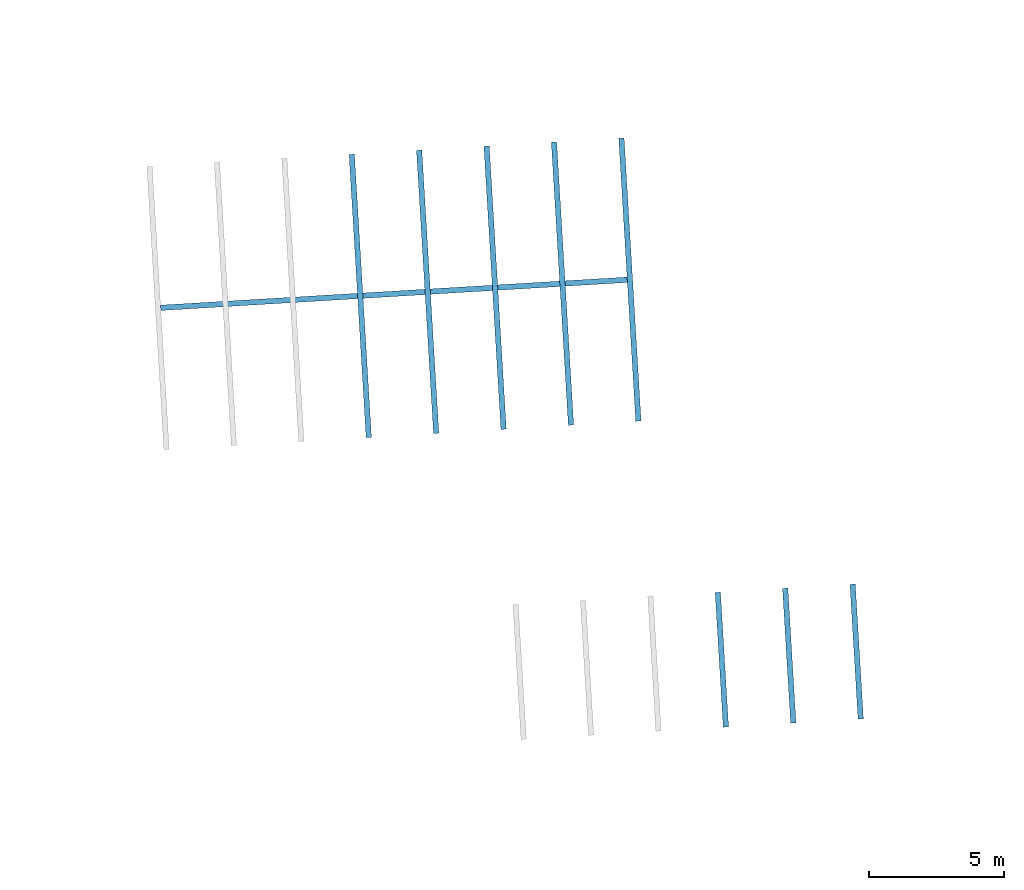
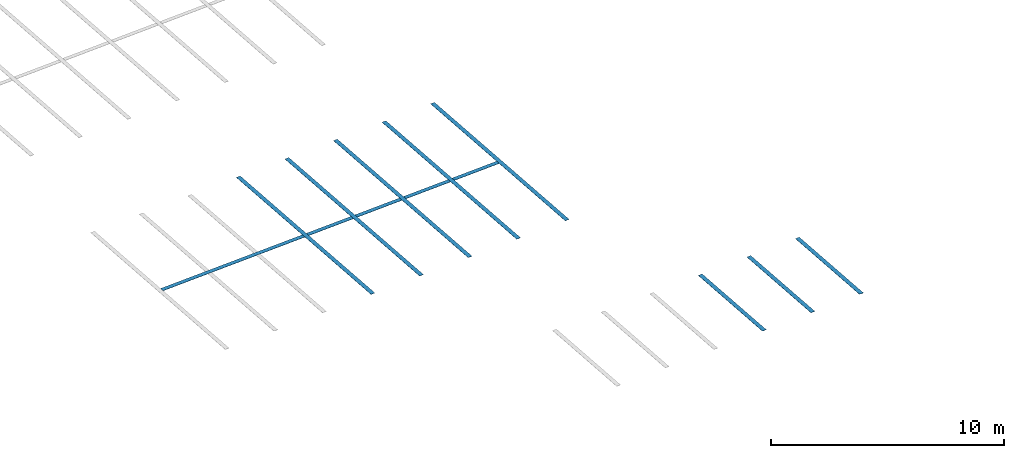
# One storey, part 12 of 24: 9 walls.
"""IFC2X3 building model written with IfcOpenShell, lengths in millimetres."""

from ifc_helpers import new_model, entity, si_unit, converted_unit, derived_unit, direction, frame, frame_2d, origin, origin_2d_with_axis, place, context, subcontext, project, spatial, rectangle, extrude, material, type_object, element, save


model = new_model("IFC2X3")

# Units and contexts
model_context = context("Model", 3, precision=0.01, world=origin(), true_north=direction((6.123031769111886e-17, 1.0)))
body_context = subcontext(model_context, "Body", "Model", "MODEL_VIEW")
ifc_project = project(units=[si_unit("LENGTHUNIT", "METRE", prefix="MILLI"), si_unit("AREAUNIT", "SQUARE_METRE"), si_unit("VOLUMEUNIT", "CUBIC_METRE"), converted_unit("PLANEANGLEUNIT", "DEGREE", entity("IfcRatioMeasure", 0.017453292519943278), si_unit("PLANEANGLEUNIT", "RADIAN"), dimensions=[0, 0, 0, 0, 0, 0, 0]), si_unit("MASSUNIT", "GRAM", prefix="KILO"), derived_unit("MASSDENSITYUNIT", [(si_unit("MASSUNIT", "GRAM", prefix="KILO"), 1), (si_unit("LENGTHUNIT", "METRE"), -3)]), derived_unit("MOMENTOFINERTIAUNIT", [(si_unit("LENGTHUNIT", "METRE"), 4)]), si_unit("TIMEUNIT", "SECOND"), si_unit("FREQUENCYUNIT", "HERTZ"), si_unit("THERMODYNAMICTEMPERATUREUNIT", "DEGREE_CELSIUS"), derived_unit("THERMALTRANSMITTANCEUNIT", [(si_unit("MASSUNIT", "GRAM", prefix="KILO"), 1), (si_unit("THERMODYNAMICTEMPERATUREUNIT", "KELVIN"), -1), (si_unit("TIMEUNIT", "SECOND"), -3)]), derived_unit("THERMALCONDUCTANCEUNIT", [(si_unit("MASSUNIT", "GRAM", prefix="KILO"), 1), (si_unit("LENGTHUNIT", "METRE"), 1), (si_unit("THERMODYNAMICTEMPERATUREUNIT", "KELVIN"), -1), (si_unit("TIMEUNIT", "SECOND"), -3)]), derived_unit("VOLUMETRICFLOWRATEUNIT", [(si_unit("LENGTHUNIT", "METRE"), 3), (si_unit("TIMEUNIT", "SECOND"), -1)]), derived_unit("MASSFLOWRATEUNIT", [(si_unit("MASSUNIT", "GRAM", prefix="KILO"), 1), (si_unit("TIMEUNIT", "SECOND"), -1)]), derived_unit("ROTATIONALFREQUENCYUNIT", [(si_unit("TIMEUNIT", "SECOND"), -1)]), si_unit("ELECTRICCURRENTUNIT", "AMPERE"), si_unit("ELECTRICVOLTAGEUNIT", "VOLT"), si_unit("POWERUNIT", "WATT"), converted_unit("FORCEUNIT", "KIP", entity("IfcRatioMeasure", 2.088543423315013e-05), si_unit("FORCEUNIT", "NEWTON"), dimensions=[1, 1, -2, 0, 0, 0, 0]), si_unit("ILLUMINANCEUNIT", "LUX"), si_unit("LUMINOUSFLUXUNIT", "LUMEN"), si_unit("LUMINOUSINTENSITYUNIT", "CANDELA"), derived_unit("USERDEFINED", [(si_unit("MASSUNIT", "GRAM", prefix="KILO"), -1), (si_unit("LENGTHUNIT", "METRE"), -2), (si_unit("TIMEUNIT", "SECOND"), 3), (si_unit("LUMINOUSFLUXUNIT", "LUMEN"), 1)]), derived_unit("USERDEFINED", [(si_unit("MASSUNIT", "GRAM", prefix="KILO"), 1), (si_unit("LENGTHUNIT", "METRE"), 3), (si_unit("TIMEUNIT", "SECOND"), -3), (si_unit("ELECTRICCURRENTUNIT", "AMPERE"), -2)]), derived_unit("USERDEFINED", [(si_unit("LENGTHUNIT", "METRE"), 2), (si_unit("TIMEUNIT", "SECOND"), -2)]), derived_unit("SOUNDPOWERUNIT", [(si_unit("MASSUNIT", "GRAM", prefix="KILO"), 1), (si_unit("LENGTHUNIT", "METRE"), 2), (si_unit("TIMEUNIT", "SECOND"), -3)]), derived_unit("SOUNDPRESSUREUNIT", [(si_unit("MASSUNIT", "GRAM", prefix="KILO"), 1), (si_unit("LENGTHUNIT", "METRE"), -1), (si_unit("TIMEUNIT", "SECOND"), -2)]), derived_unit("LINEARVELOCITYUNIT", [(si_unit("LENGTHUNIT", "METRE"), 1), (si_unit("TIMEUNIT", "SECOND"), -1)]), si_unit("PRESSUREUNIT", "PASCAL"), derived_unit("USERDEFINED", [(si_unit("LENGTHUNIT", "METRE"), -2), (si_unit("MASSUNIT", "GRAM", prefix="KILO"), 1), (si_unit("TIMEUNIT", "SECOND"), -2)]), derived_unit("LINEARFORCEUNIT", [(si_unit("MASSUNIT", "GRAM", prefix="KILO"), 1), (si_unit("LENGTHUNIT", "METRE"), 1), (si_unit("TIMEUNIT", "SECOND"), -2), (si_unit("LENGTHUNIT", "METRE"), -1)]), derived_unit("PLANARFORCEUNIT", [(si_unit("MASSUNIT", "GRAM", prefix="KILO"), 1), (si_unit("LENGTHUNIT", "METRE"), 1), (si_unit("TIMEUNIT", "SECOND"), -2), (si_unit("LENGTHUNIT", "METRE"), -2)]), derived_unit("SPECIFICHEATCAPACITYUNIT", [(si_unit("LENGTHUNIT", "METRE"), 2), (si_unit("TIMEUNIT", "SECOND"), -2), (si_unit("THERMODYNAMICTEMPERATUREUNIT", "KELVIN"), -1)]), derived_unit("VAPORPERMEABILITYUNIT", [(si_unit("TIMEUNIT", "SECOND"), 1), (si_unit("LENGTHUNIT", "METRE"), -1)]), derived_unit("DYNAMICVISCOSITYUNIT", [(si_unit("MASSUNIT", "GRAM", prefix="KILO"), 1), (si_unit("LENGTHUNIT", "METRE"), -1), (si_unit("TIMEUNIT", "SECOND"), -1)]), derived_unit("THERMALEXPANSIONCOEFFICIENTUNIT", [(si_unit("THERMODYNAMICTEMPERATUREUNIT", "KELVIN"), -1)])], contexts=[model_context])

# Site, building, storey
site_placement = place(None, frame((0.0, 0.0, 0.0), z_axis=(0.0, 0.0, 1.0), x_axis=(0.8191520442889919, 0.5735764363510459, 0.0)))
site = spatial("IfcSite", under=ifc_project, at=site_placement, Name="Default", CompositionType="ELEMENT")
building_placement = place(site_placement, origin())
building = spatial("IfcBuilding", under=site, at=building_placement, CompositionType="ELEMENT")
storey_placement = place(building_placement, frame((0.0, 0.0, -1150.0)))
storey = spatial("IfcBuildingStorey", under=building, at=storey_placement, Name="6.EG KH -1.15", CompositionType="ELEMENT", Elevation=-1150.0000000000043)

# Walls
ifc_material = material(Name="road_markirovka")
wall_type_1 = type_object("IfcWallType", Name="07", PredefinedType="NOTDEFINED", material=ifc_material)
wall_1_placement = place(storey_placement, frame((20769.60952162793, -31406.718820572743, 550.0), z_axis=(0.0, 0.0, 1.0), x_axis=(0.0, 1.0, 0.0)))
element("IfcWall", 1, at=wall_1_placement, inside=storey, type_object=wall_type_1, material=ifc_material, Name="07:07", ObjectType="07:07", context=body_context, shape_type="SweptSolid", body=[
    extrude(rectangle(XDim=200.00000000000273, YDim=4999.999999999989, at=origin_2d_with_axis()), frame((2182.58050410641, -1393.6700948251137, 0.0), z_axis=(0.0, 0.0, 1.0), x_axis=(0.5233841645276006, 0.8520968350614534, 0.0)), (0.0, 0.0, 1.0), 9.999999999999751),
])
wall_type_2 = type_object("IfcWallType", Name="08", PredefinedType="NOTDEFINED", material=ifc_material)
wall_2_placement = place(storey_placement, frame((22899.851609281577, -32715.179231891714, 550.0), z_axis=(0.0, 0.0, 1.0), x_axis=(0.0, 1.0, 0.0)))
element("IfcWall", 2, at=wall_2_placement, inside=storey, type_object=wall_type_2, material=ifc_material, Name="08 203722:08 203722", ObjectType="08 203722:08 203722", context=body_context, shape_type="SweptSolid", body=[
    extrude(rectangle(XDim=199.99999999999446, YDim=4999.999999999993, at=frame_2d((4.128253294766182e-12, -2.5011104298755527e-12), x_axis=(1.0, 0.0))), frame((2182.5805041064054, -1393.6700948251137, 0.0), z_axis=(0.0, 0.0, 1.0), x_axis=(0.5233841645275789, 0.8520968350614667, 0.0)), (0.0, 0.0, 1.0), 9.999999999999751),
])
wall_type_3 = type_object("IfcWallType", Name="09", PredefinedType="NOTDEFINED", material=ifc_material)
wall_3_placement = place(storey_placement, frame((25030.093696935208, -34023.639643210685, 550.0), z_axis=(0.0, 0.0, 1.0), x_axis=(0.0, 1.0, 0.0)))
element("IfcWall", 3, at=wall_3_placement, inside=storey, type_object=wall_type_3, material=ifc_material, Name="09:09", ObjectType="09:09", context=body_context, shape_type="SweptSolid", body=[
    extrude(rectangle(XDim=200.0000000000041, YDim=4999.999999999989, at=origin_2d_with_axis()), frame((2182.5805041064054, -1393.6700948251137, 0.0), z_axis=(0.0, 0.0, 1.0), x_axis=(0.5233841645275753, 0.8520968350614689, 0.0)), (0.0, 0.0, 1.0), 9.999999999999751),
])
wall_type_4 = type_object("IfcWallType", Name="05", PredefinedType="NOTDEFINED", material=ifc_material)
wall_4_placement = place(storey_placement, frame((12534.60715707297, -15778.553390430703, 600.0)))
element("IfcWall", 4, at=wall_4_placement, inside=storey, type_object=wall_type_4, material=ifc_material, Name="05 203758:05 203758", ObjectType="05 203758:05 203758", context=body_context, shape_type="SweptSolid", body=[
    extrude(rectangle(XDim=199.99999999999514, YDim=17300.000000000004, at=frame_2d((3.524291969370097e-12, -9.094947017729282e-13), x_axis=(1.0, 0.0))), frame((7455.847306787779, 4612.482706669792, 0.0), z_axis=(0.0, 0.0, 1.0), x_axis=(0.5233841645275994, 0.8520968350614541, 0.0)), (0.0, 0.0, 1.0), 9.999999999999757),
])
wall_type_5 = type_object("IfcWallType", Name="04", PredefinedType="NOTDEFINED", material=ifc_material)
wall_5_placement = place(storey_placement, frame((22483.083135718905, -18963.068512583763, 600.0), z_axis=(0.0, 0.0, 1.0), x_axis=(0.0, 1.0, 0.0)))
element("IfcWall", 5, at=wall_5_placement, inside=storey, type_object=wall_type_5, material=ifc_material, Name="04 203762:04 203762", ObjectType="04 203762:04 203762", context=body_context, shape_type="SweptSolid", body=[
    extrude(rectangle(XDim=200.00000000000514, YDim=10500.000000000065, at=frame_2d((-2.5650592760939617e-12, -4.547473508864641e-12), x_axis=(1.0, 0.0))), frame((4525.8468005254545, -2832.976547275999, 0.0), z_axis=(0.0, 0.0, 1.0), x_axis=(0.5233841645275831, 0.852096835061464, 0.0)), (0.0, 0.0, 1.0), 9.999999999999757),
])
wall_type_6 = type_object("IfcWallType", Name="04", PredefinedType="NOTDEFINED", material=ifc_material)
wall_6_placement = place(storey_placement, frame((24613.325223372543, -20271.52892390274, 600.0), z_axis=(0.0, 0.0, 1.0), x_axis=(0.0, 1.0, 0.0)))
element("IfcWall", 6, at=wall_6_placement, inside=storey, type_object=wall_type_6, material=ifc_material, Name="04 203764:04 203764", ObjectType="04 203764:04 203764", context=body_context, shape_type="SweptSolid", body=[
    extrude(rectangle(XDim=200.0000000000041, YDim=10500.000000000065, at=origin_2d_with_axis()), frame((4525.8468005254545, -2832.976547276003, 0.0), z_axis=(0.0, 0.0, 1.0), x_axis=(0.5233841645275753, 0.8520968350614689, 0.0)), (0.0, 0.0, 1.0), 9.999999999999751),
])
wall_type_7 = type_object("IfcWallType", Name="04", PredefinedType="NOTDEFINED", material=ifc_material)
wall_7_placement = place(storey_placement, frame((20352.841048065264, -17654.6081012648, 600.0), z_axis=(0.0, 0.0, 1.0), x_axis=(0.0, 1.0, 0.0)))
element("IfcWall", 7, at=wall_7_placement, inside=storey, type_object=wall_type_7, material=ifc_material, Name="04 203765:04 203765", ObjectType="04 203765:04 203765", context=body_context, shape_type="SweptSolid", body=[
    extrude(rectangle(XDim=200.00000000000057, YDim=10500.000000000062, at=origin_2d_with_axis()), frame((4525.8468005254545, -2832.976547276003, 0.0), z_axis=(0.0, 0.0, 1.0), x_axis=(0.5233841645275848, 0.8520968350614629, 0.0)), (0.0, 0.0, 1.0), 9.999999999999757),
])
wall_type_8 = type_object("IfcWallType", Name="04", PredefinedType="NOTDEFINED", material=ifc_material)
wall_8_placement = place(storey_placement, frame((18222.598960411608, -16346.14768994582, 600.0), z_axis=(0.0, 0.0, 1.0), x_axis=(0.0, 1.0, 0.0)))
element("IfcWall", 8, at=wall_8_placement, inside=storey, type_object=wall_type_8, material=ifc_material, Name="04 203766:04 203766", ObjectType="04 203766:04 203766", context=body_context, shape_type="SweptSolid", body=[
    extrude(rectangle(XDim=200.0000000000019, YDim=10500.000000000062, at=frame_2d((-1.8900436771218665e-12, -9.094947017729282e-13), x_axis=(1.0, 0.0))), frame((4525.8468005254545, -2832.976547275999, 0.0), z_axis=(0.0, 0.0, 1.0), x_axis=(0.5233841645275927, 0.8520968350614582, 0.0)), (0.0, 0.0, 1.0), 9.999999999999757),
])
wall_type_9 = type_object("IfcWallType", Name="04", PredefinedType="NOTDEFINED", material=ifc_material)
wall_9_placement = place(storey_placement, frame((16092.356872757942, -15037.687278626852, 600.0), z_axis=(0.0, 0.0, 1.0), x_axis=(0.0, 1.0, 0.0)))
element("IfcWall", 9, at=wall_9_placement, inside=storey, type_object=wall_type_9, material=ifc_material, Name="04 203769:04 203769", ObjectType="04 203769:04 203769", context=body_context, shape_type="SweptSolid", body=[
    extrude(rectangle(XDim=200.00000000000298, YDim=10500.000000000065, at=frame_2d((2.7000623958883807e-13, -4.547473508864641e-13), x_axis=(1.0, 0.0))), frame((4525.846800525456, -2832.976547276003, 0.0), z_axis=(0.0, 0.0, 1.0), x_axis=(0.5233841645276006, 0.8520968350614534, 0.0)), (0.0, 0.0, 1.0), 9.999999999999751),
])

save(model, "model.ifc")
